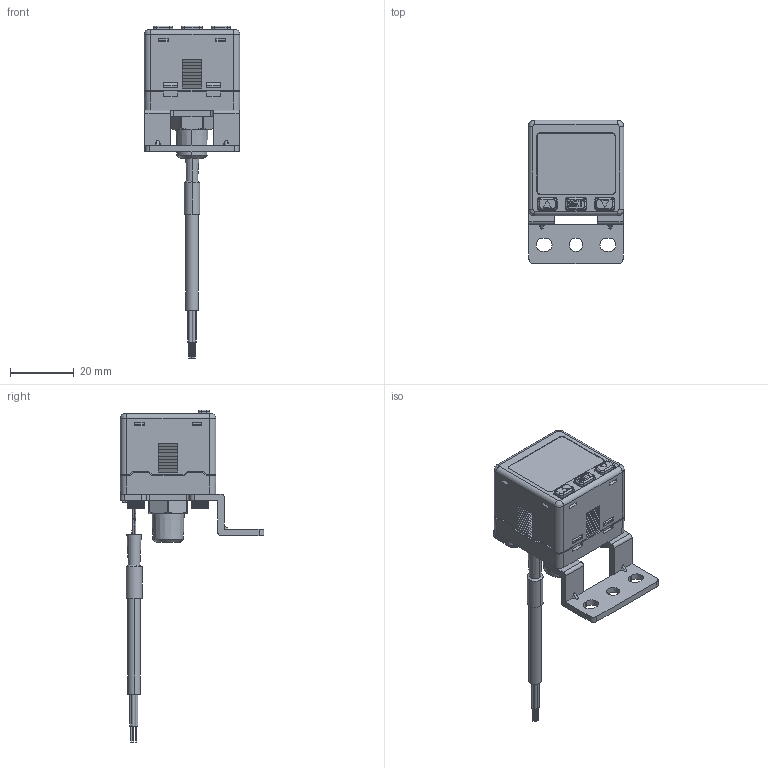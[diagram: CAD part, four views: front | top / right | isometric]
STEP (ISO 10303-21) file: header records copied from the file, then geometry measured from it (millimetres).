
FILE_DESCRIPTION((''),'2;1');
FILE_NAME('KP43-BT-12','2019-06-18T',('Stark'),(''),'CREO PARAMETRIC BY PTC INC, 2014500','CREO PARAMETRIC BY PTC INC, 2014500','');
FILE_SCHEMA(('CONFIG_CONTROL_DESIGN'));
Length unit declared in the file: millimetre
Products named in the file (1): KP43-BT-12
Bounding box: 30.03 x 45 x 104.05 mm (x, y, z)
Volume: 25974.6 mm3; surface area: 10154.8 mm2
Topology: 1 solids, 2 shells, 1334 faces, 3427 edges, 2144 vertices
Faces by surface type: plane 936, cylinder 230, cone 102, bspline 49, torus 17
Entity records: 44377 total; most frequent: CARTESIAN_POINT 12490, ORIENTED_EDGE 6846, DIRECTION 6233, EDGE_CURVE 3423, VECTOR 2341, LINE 2341, VERTEX_POINT 2144, AXIS2_PLACEMENT_3D 1946
